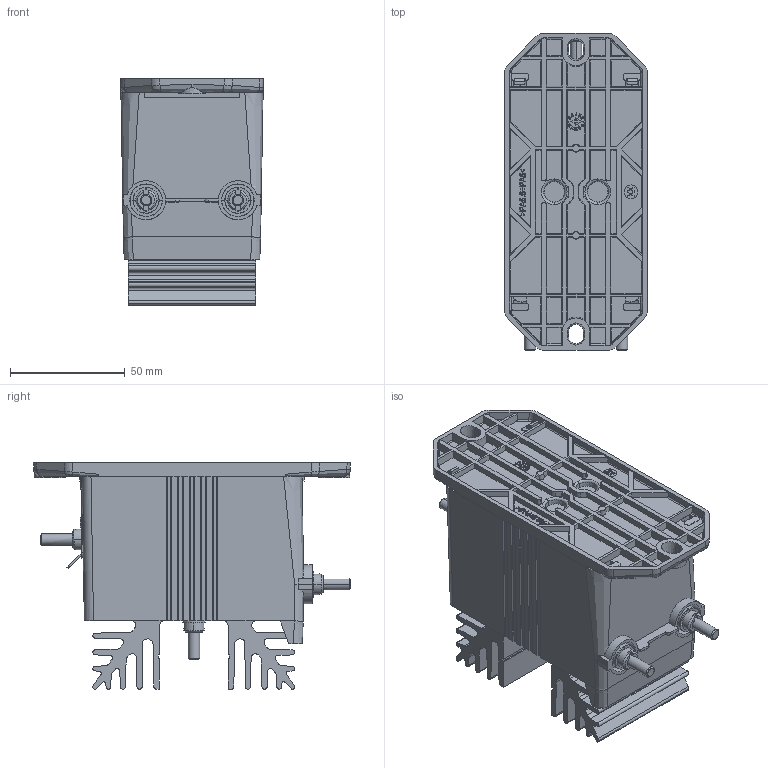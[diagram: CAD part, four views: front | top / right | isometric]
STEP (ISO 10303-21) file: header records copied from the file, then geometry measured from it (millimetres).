
FILE_DESCRIPTION(('Creo Elements/Direct Modeling STEP Export'),'2;1');
FILE_NAME('90.24.69.000.0.stp','2023-07-17T13:08:26',(''),(''),'Creo Elements/Direct Modeling STEP processor for AP214 (Solid Model)','Creo Elements/Direct Modeling 20.3D 14-Nov-2022 (C) Parametric Technology GmbH','');
FILE_SCHEMA(('AUTOMOTIVE_DESIGN { 1 0 10303 214 1 1 1 1 }'));
Products named in the file (2): LV 100-2000-Blackbox
Assembly tree (1 placements, depth 2):
  LV 100-2000-Blackbox
    LV 100-2000-Blackbox
Bounding box: 62.21 x 138.28 x 98.8 mm (x, y, z)
Volume: 443684.2 mm3; surface area: 90850.7 mm2
Topology: 1 solids, 15 shells, 2339 faces, 6458 edges, 4261 vertices
Faces by surface type: plane 1841, cylinder 344, cone 92, bspline 44, torus 12, extrusion 6
Entity records: 82656 total; most frequent: CARTESIAN_POINT 24114, ORIENTED_EDGE 12916, DIRECTION 10577, EDGE_CURVE 6458, VECTOR 4971, LINE 4965, VERTEX_POINT 4261, AXIS2_PLACEMENT_3D 2803
